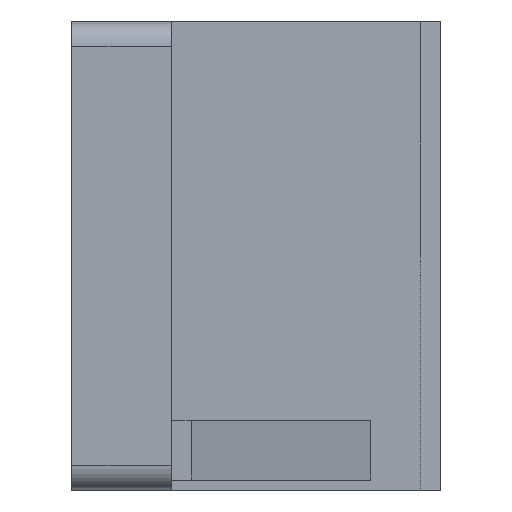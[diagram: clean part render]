
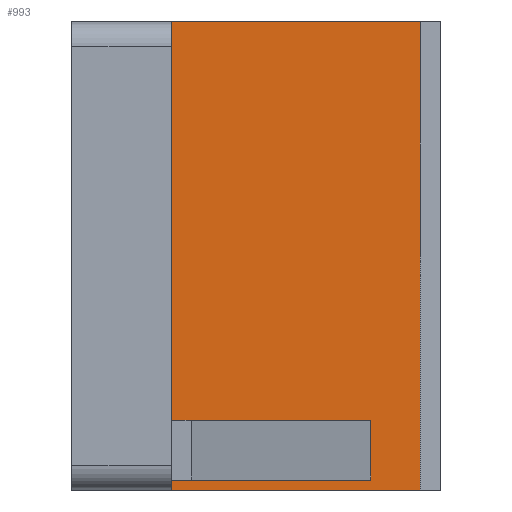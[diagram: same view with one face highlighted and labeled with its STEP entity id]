
A CAD part, left-side view. The second image highlights one B-rep face of the part: STEP entity #993.
In plain terms, the highlighted planar face has unit normal (-1, 0, 0).
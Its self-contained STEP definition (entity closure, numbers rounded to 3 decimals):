
#27 = EDGE_LOOP ( 'NONE', ( #758, #1827, #712, #845 ) ) ;
#83 = AXIS2_PLACEMENT_3D ( 'NONE', #893, #1131, #833 ) ;
#105 = CARTESIAN_POINT ( 'NONE',  ( 0., 27., 23.5 ) ) ;
#113 = CARTESIAN_POINT ( 'NONE',  ( 0., 0., 23.5 ) ) ;
#185 = VECTOR ( 'NONE', #624, 1000. ) ;
#226 = CARTESIAN_POINT ( 'NONE',  ( 0., 2., 23.5 ) ) ;
#295 = CARTESIAN_POINT ( 'NONE',  ( 0., 27., 23.5 ) ) ;
#375 = DIRECTION ( 'NONE',  ( 0., 0., 1. ) ) ;
#418 = VECTOR ( 'NONE', #1843, 1000. ) ;
#549 = VERTEX_POINT ( 'NONE', #105 ) ;
#624 = DIRECTION ( 'NONE',  ( 0., -1., 0. ) ) ;
#712 = ORIENTED_EDGE ( 'NONE', *, *, #1392, .F. ) ;
#734 = PLANE ( 'NONE',  #83 ) ;
#752 = VECTOR ( 'NONE', #1832, 1000. ) ;
#758 = ORIENTED_EDGE ( 'NONE', *, *, #1758, .T. ) ;
#833 = DIRECTION ( 'NONE',  ( 0., 1., 0. ) ) ;
#845 = ORIENTED_EDGE ( 'NONE', *, *, #932, .T. ) ;
#881 = CARTESIAN_POINT ( 'NONE',  ( 0., 27., -23.5 ) ) ;
#893 = CARTESIAN_POINT ( 'NONE',  ( 0., 0., 23.5 ) ) ;
#922 = VECTOR ( 'NONE', #375, 1000. ) ;
#932 = EDGE_CURVE ( 'NONE', #549, #1097, #1489, .T. ) ;
#993 = ADVANCED_FACE ( 'NONE', ( #1057 ), #734, .F. ) ;
#1000 = LINE ( 'NONE', #226, #922 ) ;
#1057 = FACE_OUTER_BOUND ( 'NONE', #27, .T. ) ;
#1097 = VERTEX_POINT ( 'NONE', #881 ) ;
#1131 = DIRECTION ( 'NONE',  ( 1., 0., 0. ) ) ;
#1185 = CARTESIAN_POINT ( 'NONE',  ( 0., 2., -23.5 ) ) ;
#1312 = LINE ( 'NONE', #1693, #185 ) ;
#1392 = EDGE_CURVE ( 'NONE', #549, #1474, #1493, .T. ) ;
#1474 = VERTEX_POINT ( 'NONE', #1662 ) ;
#1489 = LINE ( 'NONE', #295, #752 ) ;
#1493 = LINE ( 'NONE', #113, #418 ) ;
#1662 = CARTESIAN_POINT ( 'NONE',  ( 0., 2., 23.5 ) ) ;
#1693 = CARTESIAN_POINT ( 'NONE',  ( 0., 0., -23.5 ) ) ;
#1758 = EDGE_CURVE ( 'NONE', #1097, #1829, #1312, .T. ) ;
#1822 = EDGE_CURVE ( 'NONE', #1829, #1474, #1000, .T. ) ;
#1827 = ORIENTED_EDGE ( 'NONE', *, *, #1822, .T. ) ;
#1829 = VERTEX_POINT ( 'NONE', #1185 ) ;
#1832 = DIRECTION ( 'NONE',  ( 0., 0., -1. ) ) ;
#1843 = DIRECTION ( 'NONE',  ( 0., -1., 0. ) ) ;
